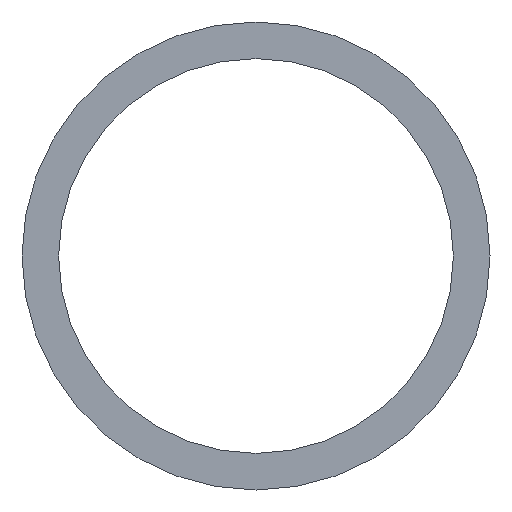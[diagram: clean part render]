
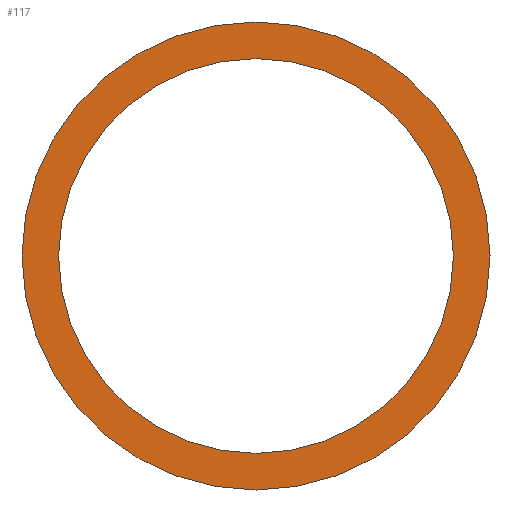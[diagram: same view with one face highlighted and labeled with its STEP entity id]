
A CAD part, front view. The second image highlights one B-rep face of the part: STEP entity #117.
In plain terms, the highlighted planar face has unit normal (0, -1, 0).
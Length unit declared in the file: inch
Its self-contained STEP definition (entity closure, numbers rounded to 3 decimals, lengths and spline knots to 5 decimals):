
#2 = DIRECTION ( 'NONE',  ( 0., 0., 1. ) ) ;
#7 = DIRECTION ( 'NONE',  ( 0., 1., 0. ) ) ;
#9 = CARTESIAN_POINT ( 'NONE',  ( 0., -0.02461, 1.90945 ) ) ;
#13 = CIRCLE ( 'NONE', #199, 2.26378 ) ;
#16 = CARTESIAN_POINT ( 'NONE',  ( 0., -0.02461, 0. ) ) ;
#21 = AXIS2_PLACEMENT_3D ( 'NONE', #43, #7, #141 ) ;
#33 = EDGE_CURVE ( 'NONE', #118, #177, #175, .T. ) ;
#38 = DIRECTION ( 'NONE',  ( 0., 0., 1. ) ) ;
#42 = CIRCLE ( 'NONE', #21, 1.90945 ) ;
#43 = CARTESIAN_POINT ( 'NONE',  ( 0., -0.02461, 0. ) ) ;
#45 = CARTESIAN_POINT ( 'NONE',  ( 0., -0.02461, 2.26378 ) ) ;
#46 = AXIS2_PLACEMENT_3D ( 'NONE', #83, #133, #38 ) ;
#47 = EDGE_CURVE ( 'NONE', #144, #121, #145, .T. ) ;
#69 = DIRECTION ( 'NONE',  ( 0., 1., 0. ) ) ;
#73 = DIRECTION ( 'NONE',  ( 1., 0., 0. ) ) ;
#77 = PLANE ( 'NONE',  #94 ) ;
#81 = ORIENTED_EDGE ( 'NONE', *, *, #82, .F. ) ;
#82 = EDGE_CURVE ( 'NONE', #121, #144, #13, .T. ) ;
#83 = CARTESIAN_POINT ( 'NONE',  ( 0., -0.02461, 0. ) ) ;
#85 = CARTESIAN_POINT ( 'NONE',  ( 0., -0.02461, 0. ) ) ;
#94 = AXIS2_PLACEMENT_3D ( 'NONE', #129, #107, #73 ) ;
#97 = ORIENTED_EDGE ( 'NONE', *, *, #33, .T. ) ;
#105 = DIRECTION ( 'NONE',  ( 0., 0., 1. ) ) ;
#107 = DIRECTION ( 'NONE',  ( 0., 1., 0. ) ) ;
#117 = ADVANCED_FACE ( 'NONE', ( #189, #128 ), #77, .F. ) ;
#118 = VERTEX_POINT ( 'NONE', #9 ) ;
#121 = VERTEX_POINT ( 'NONE', #45 ) ;
#123 = AXIS2_PLACEMENT_3D ( 'NONE', #85, #183, #105 ) ;
#128 = FACE_OUTER_BOUND ( 'NONE', #194, .T. ) ;
#129 = CARTESIAN_POINT ( 'NONE',  ( 0., -0.02461, 0. ) ) ;
#133 = DIRECTION ( 'NONE',  ( 0., 1., 0. ) ) ;
#139 = CARTESIAN_POINT ( 'NONE',  ( 0., -0.02461, -2.26378 ) ) ;
#141 = DIRECTION ( 'NONE',  ( 0., 0., 1. ) ) ;
#144 = VERTEX_POINT ( 'NONE', #139 ) ;
#145 = CIRCLE ( 'NONE', #123, 2.26378 ) ;
#149 = ORIENTED_EDGE ( 'NONE', *, *, #47, .F. ) ;
#175 = CIRCLE ( 'NONE', #46, 1.90945 ) ;
#177 = VERTEX_POINT ( 'NONE', #187 ) ;
#181 = EDGE_CURVE ( 'NONE', #177, #118, #42, .T. ) ;
#183 = DIRECTION ( 'NONE',  ( 0., 1., 0. ) ) ;
#187 = CARTESIAN_POINT ( 'NONE',  ( 0., -0.02461, -1.90945 ) ) ;
#189 = FACE_BOUND ( 'NONE', #202, .T. ) ;
#192 = ORIENTED_EDGE ( 'NONE', *, *, #181, .T. ) ;
#194 = EDGE_LOOP ( 'NONE', ( #149, #81 ) ) ;
#199 = AXIS2_PLACEMENT_3D ( 'NONE', #16, #69, #2 ) ;
#202 = EDGE_LOOP ( 'NONE', ( #192, #97 ) ) ;
